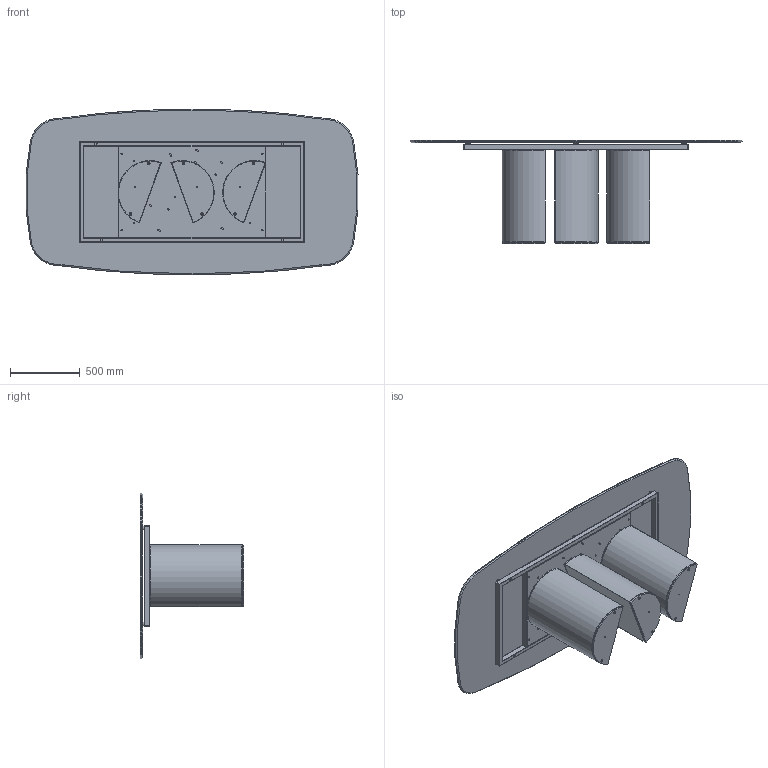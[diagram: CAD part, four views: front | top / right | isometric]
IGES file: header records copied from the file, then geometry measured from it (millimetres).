
Start section: SolidWorks IGES file using analytic representation for surfaces
Global section: file name: Y:\eforma\TECNICO\SOLIDWORKS\E-FORMA\1-TAVOLI\PLAI\02 parts\PL42C.IGS; native system: SolidWorks 2022; preprocessor: SolidWorks 2022; author: eforma.tech; date: 240807.155502; units: millimetre
Bounding box: 2382.15 x 740 x 1190 mm (x, y, z)
Volume: 54529190.6 mm3; surface area: 19210436.8 mm2
Topology: 49 solids, 49 shells, 1137 faces, 2547 edges, 1490 vertices
Faces by surface type: revolution 668, plane 469
